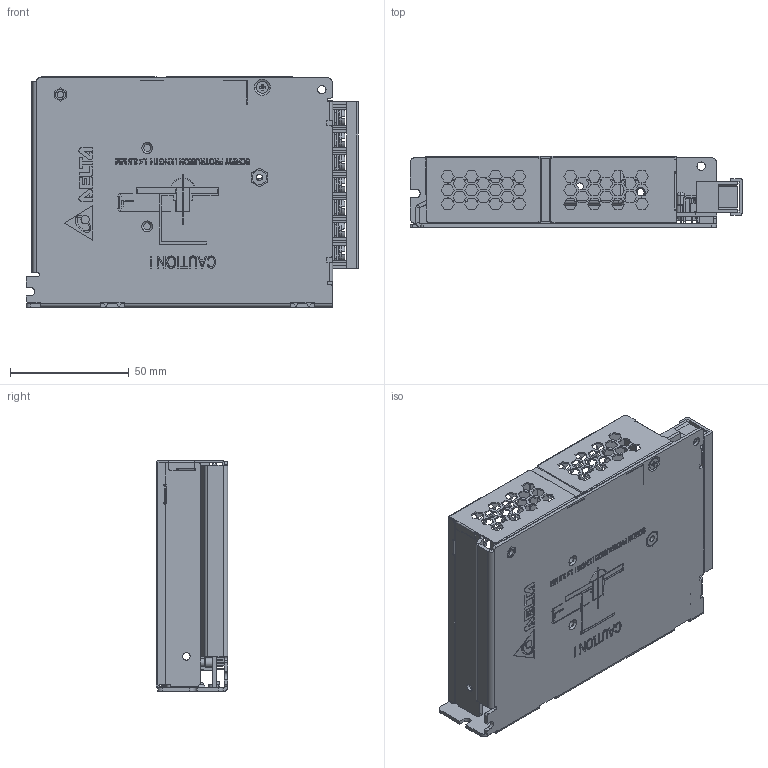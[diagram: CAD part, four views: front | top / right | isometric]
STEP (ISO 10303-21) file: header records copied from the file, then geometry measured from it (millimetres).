
FILE_DESCRIPTION((''),'2;1');
FILE_NAME('PMH-24V100WCMV_ASM','2018-04-10T',('warud'),(''),'PRO/ENGINEER BY PARAMETRIC TECHNOLOGY CORPORATION, 2010180','PRO/ENGINEER BY PARAMETRIC TECHNOLOGY CORPORATION, 2010180','');
FILE_SCHEMA(('CONFIG_CONTROL_DESIGN','SHAPE_APPEARANCE_LAYERS_GROUPS'));
Products named in the file (17): 330336890001_A_BODY_1; 330336890001_A_STUD6-32_1; 330336890001_A_STUDM3_1; 330336890001_ASM_1_ASM; 330336860000_1; PWB_MAINBOARD_1; 307049907W_BODY_1; TERM_T24-E03107A301_SCREW_1; 307049907W_COVER_1; 307049907W_ASM_1_ASM; EE_VR131_1; EE_LED370_1; 312330170000_LED-HOLDER_1; ASSY_PWB-MAINBOARD_ASM_2_ASM; 3105469000_1; 3263670900_1; PMH-24V100WCMV_ASM
Assembly tree (22 placements, depth 4):
  PMH-24V100WCMV_ASM
    330336890001_ASM_1_ASM
      330336890001_A_BODY_1
      330336890001_A_STUD6-32_1
      330336890001_A_STUDM3_1
    330336860000_1
    ASSY_PWB-MAINBOARD_ASM_2_ASM
      PWB_MAINBOARD_1
      307049907W_ASM_1_ASM
        307049907W_BODY_1
        TERM_T24-E03107A301_SCREW_1  x7
        307049907W_COVER_1
      EE_VR131_1
      EE_LED370_1
      312330170000_LED-HOLDER_1
    3105469000_1
    3263670900_1
Bounding box: 139.7 x 30.1 x 97 mm (x, y, z)
Volume: 63422.1 mm3; surface area: 102616.3 mm2
Topology: 19 solids, 19 shells, 5451 faces, 14998 edges, 9510 vertices
Faces by surface type: plane 4225, cylinder 502, extrusion 325, bspline 292, cone 77, torus 30
Entity records: 191657 total; most frequent: CARTESIAN_POINT 33496, ORIENTED_EDGE 26596, DIRECTION 22561, EDGE_CURVE 13298, VECTOR 11837, PRESENTATION_STYLE_ASSIGNMENT 11706, STYLED_ITEM 11641, CURVE_STYLE 11557
